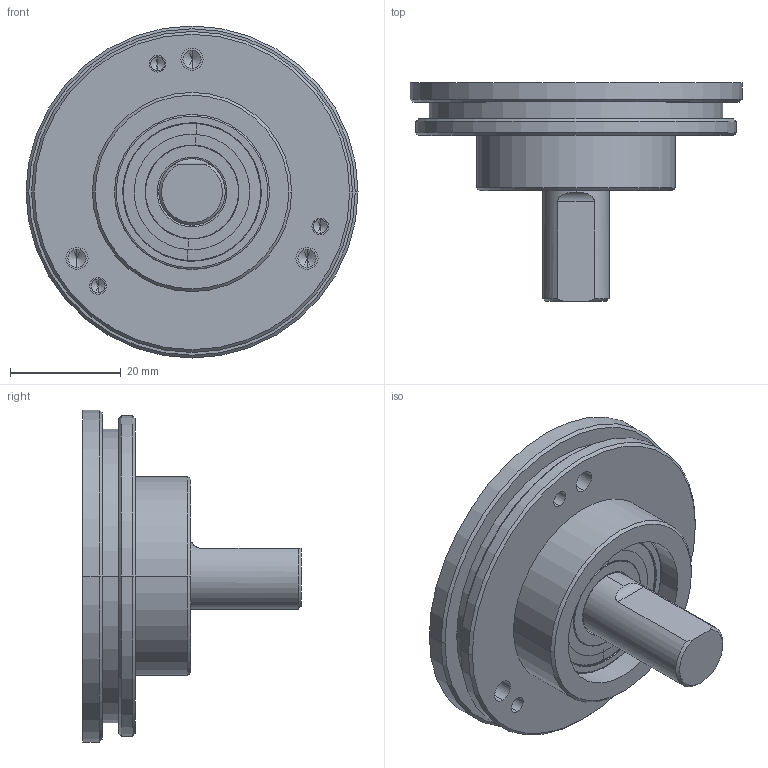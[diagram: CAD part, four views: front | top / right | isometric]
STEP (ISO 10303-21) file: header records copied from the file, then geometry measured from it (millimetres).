
FILE_DESCRIPTION (( 'STEP AP214' ), '1' );
FILE_NAME ('OCD-C12V-C5Y-N.STEP', '2013-02-26T14:20:49', ( '' ), ( '' ), 'SwSTEP 2.0', 'SolidWorks 2006104', '' );
FILE_SCHEMA (( 'AUTOMOTIVE_DESIGN' ));
Length unit declared in the file: millimetre
Products named in the file (1): OCD-C12V-C5Y-N
Bounding box: 60 x 39.5 x 60 mm (x, y, z)
Volume: 30728.9 mm3; surface area: 16290.6 mm2
Topology: 4 solids, 10 shells, 182 faces, 379 edges, 214 vertices
Faces by surface type: cylinder 71, cone 42, torus 40, plane 29
Entity records: 6778 total; most frequent: DIRECTION 957, CARTESIAN_POINT 792, ORIENTED_EDGE 714, AXIS2_PLACEMENT_3D 421, EDGE_CURVE 357, CIRCLE 238, VERTEX_POINT 214, EDGE_LOOP 209
